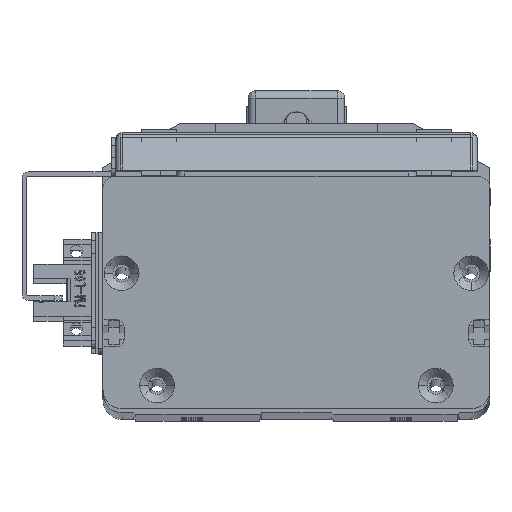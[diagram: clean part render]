
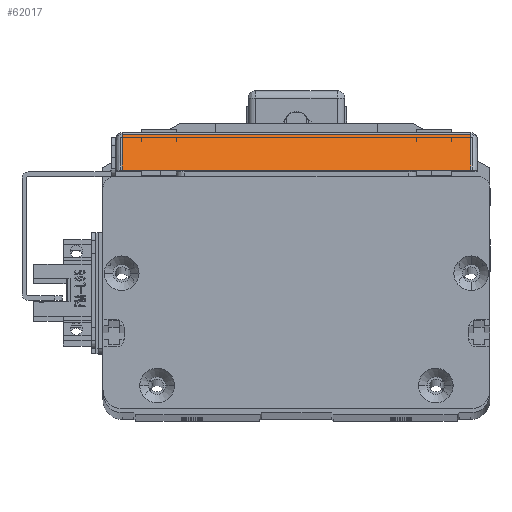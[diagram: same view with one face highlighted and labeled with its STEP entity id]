
A CAD part, top view. The second image highlights one B-rep face of the part: STEP entity #62017.
In plain terms, the highlighted planar face has unit normal (0, 0.707, 0.707) as drawn and (-0.707, 0, -0.707) by its records, which use the part's own axes.
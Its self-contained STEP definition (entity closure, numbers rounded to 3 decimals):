
#1107 = CARTESIAN_POINT ( 'NONE',  ( -66.5, 1.7, 4.1 ) ) ;
#1277 = CARTESIAN_POINT ( 'NONE',  ( -68., 91.7, 5.6 ) ) ;
#2041 = ORIENTED_EDGE ( 'NONE', *, *, #41974, .T. ) ;
#7513 = LINE ( 'NONE', #20814, #67732 ) ;
#11094 = FACE_OUTER_BOUND ( 'NONE', #38194, .T. ) ;
#12529 = EDGE_CURVE ( 'NONE', #34047, #57010, #7513, .T. ) ;
#14190 = EDGE_CURVE ( 'NONE', #22952, #62559, #37587, .T. ) ;
#15012 = ORIENTED_EDGE ( 'NONE', *, *, #14190, .T. ) ;
#16508 = ORIENTED_EDGE ( 'NONE', *, *, #12529, .T. ) ;
#18006 = PLANE ( 'NONE',  #32037 ) ;
#19567 = VECTOR ( 'NONE', #37138, 1000. ) ;
#20814 = CARTESIAN_POINT ( 'NONE',  ( -68., 1.7, 5.6 ) ) ;
#22633 = DIRECTION ( 'NONE',  ( -0.707, 0., 0.707 ) ) ;
#22952 = VERTEX_POINT ( 'NONE', #31751 ) ;
#23372 = VECTOR ( 'NONE', #39351, 1000. ) ;
#23381 = CARTESIAN_POINT ( 'NONE',  ( -68., 93.4, 5.6 ) ) ;
#28170 = CARTESIAN_POINT ( 'NONE',  ( -57.298, 1.7, -5.102 ) ) ;
#28320 = LINE ( 'NONE', #67068, #58451 ) ;
#29693 = CARTESIAN_POINT ( 'NONE',  ( -57.298, 91.7, -5.102 ) ) ;
#31751 = CARTESIAN_POINT ( 'NONE',  ( -66.5, 91.7, 4.1 ) ) ;
#32037 = AXIS2_PLACEMENT_3D ( 'NONE', #23381, #60761, #61206 ) ;
#34047 = VERTEX_POINT ( 'NONE', #28170 ) ;
#36879 = EDGE_CURVE ( 'NONE', #62559, #34047, #66438, .T. ) ;
#37138 = DIRECTION ( 'NONE',  ( 0., -1., 0. ) ) ;
#37587 = LINE ( 'NONE', #1277, #23372 ) ;
#38194 = EDGE_LOOP ( 'NONE', ( #16508, #2041, #15012, #61993 ) ) ;
#39351 = DIRECTION ( 'NONE',  ( 0.707, 0., -0.707 ) ) ;
#41974 = EDGE_CURVE ( 'NONE', #57010, #22952, #28320, .T. ) ;
#55599 = DIRECTION ( 'NONE',  ( 0., 1., 0. ) ) ;
#57010 = VERTEX_POINT ( 'NONE', #1107 ) ;
#58451 = VECTOR ( 'NONE', #55599, 1000. ) ;
#60761 = DIRECTION ( 'NONE',  ( -0.707, 0., -0.707 ) ) ;
#61206 = DIRECTION ( 'NONE',  ( -0.707, 0., 0.707 ) ) ;
#61993 = ORIENTED_EDGE ( 'NONE', *, *, #36879, .T. ) ;
#62017 = ADVANCED_FACE ( 'NONE', ( #11094 ), #18006, .T. ) ;
#62559 = VERTEX_POINT ( 'NONE', #29693 ) ;
#66438 = LINE ( 'NONE', #69138, #19567 ) ;
#67068 = CARTESIAN_POINT ( 'NONE',  ( -66.5, 93.4, 4.1 ) ) ;
#67732 = VECTOR ( 'NONE', #22633, 1000. ) ;
#69138 = CARTESIAN_POINT ( 'NONE',  ( -57.298, 93.4, -5.102 ) ) ;
